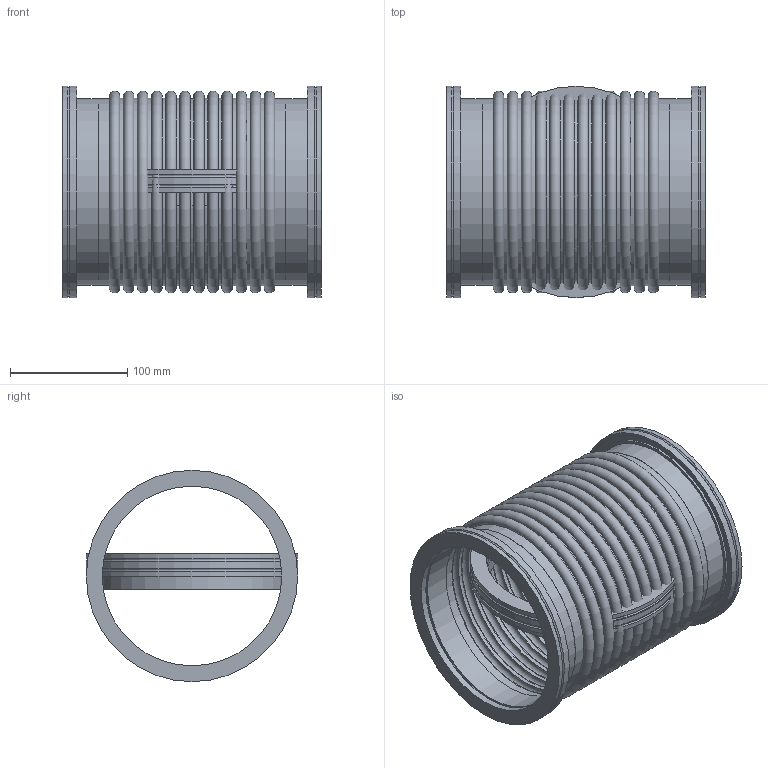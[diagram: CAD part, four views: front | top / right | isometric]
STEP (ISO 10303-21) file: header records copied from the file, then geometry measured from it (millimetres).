
FILE_DESCRIPTION( ( 'Unknown' ), '1' );
FILE_NAME( 'X:/Daten ( aktueller Bestand )/Projekte und Zeichnungen/Solid Edge/11 ISO-K Schläuche +FK/ISO-K-Federungskörper/6993.stp', 'Unknown', ( 'Unknown' ), ( 'Unknown' ), 'XStep 1.0', 'Unknown', ' ' );
FILE_SCHEMA( ( 'automotive_design' ) );
Length unit declared in the file: millimetre
Products named in the file (5): Assem1; Assem2; 6523-1; 6513; 6993-1
Bounding box: 220 x 180 x 180 mm (x, y, z)
Volume: 481896 mm3; surface area: 778526.6 mm2
Topology: 10 solids, 10 shells, 172 faces, 338 edges, 198 vertices
Faces by surface type: cylinder 84, torus 52, plane 32, cone 4
Full cylindrical faces by diameter (mm): 153 x8, 158.5 x6, 159 x10, 159.5 x20, 160 x24, 165 x4, 175 x4, 180 x8
Entity records: 1594 total; most frequent: DIRECTION 288, CARTESIAN_POINT 213, AXIS2_PLACEMENT_3D 144, EDGE_LOOP 138, ORIENTED_EDGE 138, FACE_OUTER_BOUND 128, ADVANCED_FACE 69, EDGE_CURVE 69
